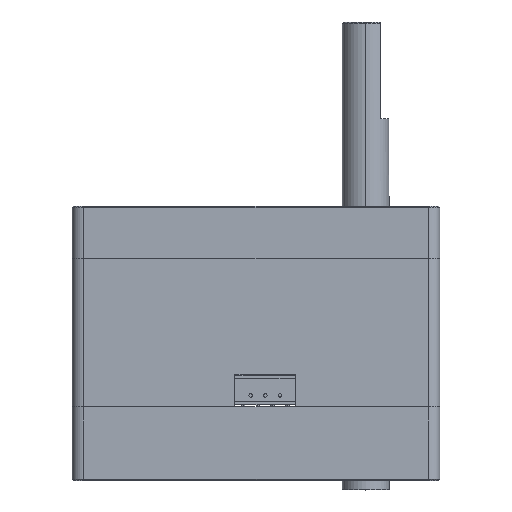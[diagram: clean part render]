
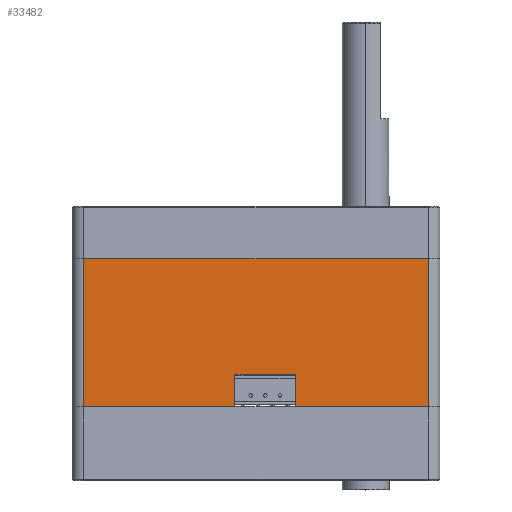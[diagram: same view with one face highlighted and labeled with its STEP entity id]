
A CAD part, top view. The second image highlights one B-rep face of the part: STEP entity #33482.
In plain terms, the highlighted planar face has unit normal (0, 0, 1).
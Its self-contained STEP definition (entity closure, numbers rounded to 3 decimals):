
#693 = CARTESIAN_POINT ( 'NONE',  ( -29.5, 12.6, 17. ) ) ;
#1802 = VECTOR ( 'NONE', #5685, 1000. ) ;
#2316 = VECTOR ( 'NONE', #17053, 1000. ) ;
#2833 = EDGE_CURVE ( 'NONE', #22629, #33631, #11581, .T. ) ;
#2988 = CARTESIAN_POINT ( 'NONE',  ( -3.607, 18.2, 17. ) ) ;
#3010 = ORIENTED_EDGE ( 'NONE', *, *, #20331, .T. ) ;
#4145 = EDGE_CURVE ( 'NONE', #13951, #14351, #6859, .T. ) ;
#4209 = DIRECTION ( 'NONE',  ( 1., 0., 0. ) ) ;
#5571 = DIRECTION ( 'NONE',  ( 0., 1., 0. ) ) ;
#5685 = DIRECTION ( 'NONE',  ( 1., 0., 0. ) ) ;
#5845 = CARTESIAN_POINT ( 'NONE',  ( 29.5, 38., 17. ) ) ;
#6859 = LINE ( 'NONE', #17758, #30335 ) ;
#7206 = FACE_OUTER_BOUND ( 'NONE', #15104, .T. ) ;
#8821 = VERTEX_POINT ( 'NONE', #2988 ) ;
#9009 = EDGE_CURVE ( 'NONE', #8821, #23960, #22024, .T. ) ;
#9746 = CARTESIAN_POINT ( 'NONE',  ( 6.793, 18.2, 17. ) ) ;
#10420 = DIRECTION ( 'NONE',  ( 0., 0., 1. ) ) ;
#10645 = ORIENTED_EDGE ( 'NONE', *, *, #28429, .T. ) ;
#10781 = DIRECTION ( 'NONE',  ( 0., 1., 0. ) ) ;
#11151 = EDGE_CURVE ( 'NONE', #22629, #13951, #26044, .T. ) ;
#11528 = LINE ( 'NONE', #33403, #2316 ) ;
#11581 = LINE ( 'NONE', #693, #1802 ) ;
#12521 = CARTESIAN_POINT ( 'NONE',  ( -29.5, 12.6, 17. ) ) ;
#13466 = DIRECTION ( 'NONE',  ( 1., 0., 0. ) ) ;
#13779 = VECTOR ( 'NONE', #32375, 1000. ) ;
#13888 = CARTESIAN_POINT ( 'NONE',  ( -3.607, 12.6, 17. ) ) ;
#13951 = VERTEX_POINT ( 'NONE', #32275 ) ;
#14020 = DIRECTION ( 'NONE',  ( 1., 0., 0. ) ) ;
#14351 = VERTEX_POINT ( 'NONE', #5845 ) ;
#15104 = EDGE_LOOP ( 'NONE', ( #17049, #10645, #16468, #34314, #22625, #3010, #32759, #31133 ) ) ;
#15330 = VERTEX_POINT ( 'NONE', #17313 ) ;
#15379 = CARTESIAN_POINT ( 'NONE',  ( 29.5, 12.6, 17. ) ) ;
#15629 = CARTESIAN_POINT ( 'NONE',  ( -31., 0., 17. ) ) ;
#16161 = CARTESIAN_POINT ( 'NONE',  ( -4.857, 18.2, 17. ) ) ;
#16468 = ORIENTED_EDGE ( 'NONE', *, *, #9009, .T. ) ;
#17049 = ORIENTED_EDGE ( 'NONE', *, *, #2833, .T. ) ;
#17053 = DIRECTION ( 'NONE',  ( 0., 1., 0. ) ) ;
#17313 = CARTESIAN_POINT ( 'NONE',  ( 6.793, 12.6, 17. ) ) ;
#17758 = CARTESIAN_POINT ( 'NONE',  ( -29.5, 38., 17. ) ) ;
#18225 = LINE ( 'NONE', #15379, #33032 ) ;
#18713 = EDGE_CURVE ( 'NONE', #15330, #23960, #21812, .T. ) ;
#19140 = CARTESIAN_POINT ( 'NONE',  ( 6.793, 0., 17. ) ) ;
#19349 = LINE ( 'NONE', #29659, #21638 ) ;
#20331 = EDGE_CURVE ( 'NONE', #28027, #14351, #11528, .T. ) ;
#21593 = DIRECTION ( 'NONE',  ( -1., 0., 0. ) ) ;
#21638 = VECTOR ( 'NONE', #10781, 1000. ) ;
#21812 = LINE ( 'NONE', #19140, #34113 ) ;
#22024 = LINE ( 'NONE', #16161, #24472 ) ;
#22625 = ORIENTED_EDGE ( 'NONE', *, *, #30075, .F. ) ;
#22629 = VERTEX_POINT ( 'NONE', #26599 ) ;
#23960 = VERTEX_POINT ( 'NONE', #9746 ) ;
#24081 = AXIS2_PLACEMENT_3D ( 'NONE', #15629, #10420, #13466 ) ;
#24472 = VECTOR ( 'NONE', #14020, 1000. ) ;
#26044 = LINE ( 'NONE', #12521, #13779 ) ;
#26292 = PLANE ( 'NONE',  #24081 ) ;
#26599 = CARTESIAN_POINT ( 'NONE',  ( -29.5, 12.6, 17. ) ) ;
#28027 = VERTEX_POINT ( 'NONE', #28188 ) ;
#28188 = CARTESIAN_POINT ( 'NONE',  ( 29.5, 12.6, 17. ) ) ;
#28429 = EDGE_CURVE ( 'NONE', #33631, #8821, #19349, .T. ) ;
#29659 = CARTESIAN_POINT ( 'NONE',  ( -3.607, 13.159, 17. ) ) ;
#30075 = EDGE_CURVE ( 'NONE', #28027, #15330, #18225, .T. ) ;
#30335 = VECTOR ( 'NONE', #4209, 1000. ) ;
#31133 = ORIENTED_EDGE ( 'NONE', *, *, #11151, .F. ) ;
#32275 = CARTESIAN_POINT ( 'NONE',  ( -29.5, 38., 17. ) ) ;
#32375 = DIRECTION ( 'NONE',  ( 0., 1., 0. ) ) ;
#32759 = ORIENTED_EDGE ( 'NONE', *, *, #4145, .F. ) ;
#33032 = VECTOR ( 'NONE', #21593, 1000. ) ;
#33403 = CARTESIAN_POINT ( 'NONE',  ( 29.5, 12.6, 17. ) ) ;
#33482 = ADVANCED_FACE ( 'NONE', ( #7206 ), #26292, .T. ) ;
#33631 = VERTEX_POINT ( 'NONE', #13888 ) ;
#34113 = VECTOR ( 'NONE', #5571, 1000. ) ;
#34314 = ORIENTED_EDGE ( 'NONE', *, *, #18713, .F. ) ;
